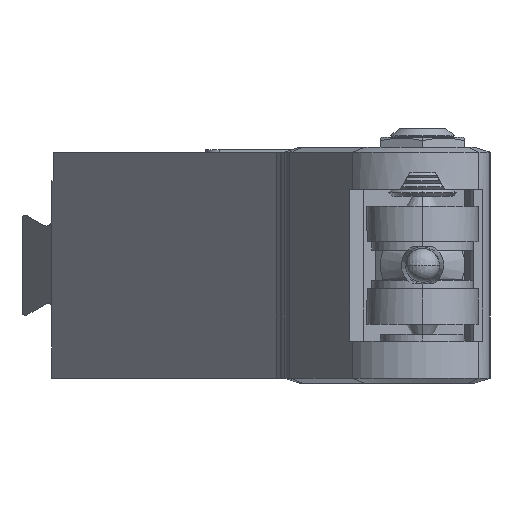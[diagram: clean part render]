
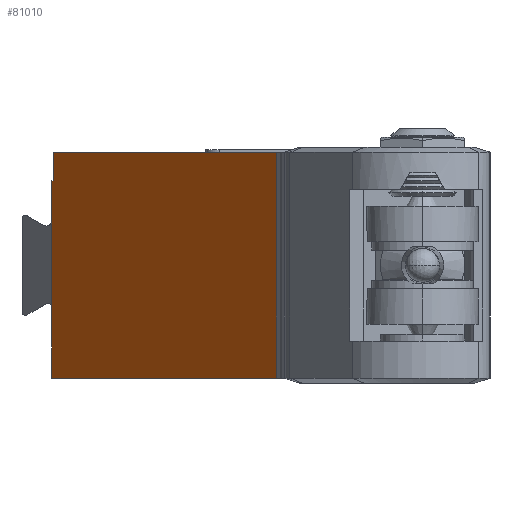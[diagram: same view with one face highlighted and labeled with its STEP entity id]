
A CAD part, left-side view. The second image highlights one B-rep face of the part: STEP entity #81010.
In plain terms, the highlighted planar face has unit normal (-0.643, 0.766, 0).
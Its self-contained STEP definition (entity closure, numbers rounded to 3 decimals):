
#14870=CARTESIAN_POINT('',(27.531,-70.405,5.));
#14880=VERTEX_POINT('',#14870);
#15030=CARTESIAN_POINT('',(27.531,-70.405,6.7));
#15040=VERTEX_POINT('',#15030);
#15070=CARTESIAN_POINT('',(27.531,-70.405,0.));
#15080=DIRECTION('',(0.,0.,-1.));
#15090=VECTOR('',#15080,1.);
#15100=LINE('',#15070,#15090);
#15110=EDGE_CURVE('',#15040,#14880,#15100,.T.);
#16600=CARTESIAN_POINT('',(11.762,-83.637,6.7));
#16610=VERTEX_POINT('',#16600);
#16640=CARTESIAN_POINT('',(-0.7,-94.094,6.7));
#16650=DIRECTION('',(0.766,0.643,0.));
#16660=VECTOR('',#16650,1.);
#16670=LINE('',#16640,#16660);
#16680=EDGE_CURVE('',#16610,#15040,#16670,.T.);
#62490=CARTESIAN_POINT('',(27.65,-70.305,
2.627));
#62500=VERTEX_POINT('',#62490);
#72080=CARTESIAN_POINT('',(-1.083,-94.415,5.));
#72090=DIRECTION('',(0.766,0.643,0.));
#72100=VECTOR('',#72090,1.);
#72110=LINE('',#72080,#72100);
#72120=CARTESIAN_POINT('',(27.65,-70.305,5.));
#72130=VERTEX_POINT('',#72120);
#72140=EDGE_CURVE('',#14880,#72130,#72110,.T.);
#78690=CARTESIAN_POINT('',(11.762,-83.637,-6.7));
#78700=VERTEX_POINT('',#78690);
#78730=CARTESIAN_POINT('',(11.762,-83.637,-7.));
#78740=DIRECTION('',(0.,0.,1.));
#78750=VECTOR('',#78740,1.);
#78760=LINE('',#78730,#78750);
#78770=EDGE_CURVE('',#78700,#16610,#78760,.T.);
#78940=CARTESIAN_POINT('',(27.65,-70.305,-7.));
#78950=DIRECTION('',(0.,0.,-1.));
#78960=VECTOR('',#78950,1.);
#78970=LINE('',#78940,#78960);
#78980=CARTESIAN_POINT('',(27.65,-70.305,
-2.453));
#78990=VERTEX_POINT('',#78980);
#79000=CARTESIAN_POINT('',(27.65,-70.305,-6.7));
#79010=VERTEX_POINT('',#79000);
#79020=EDGE_CURVE('',#78990,#79010,#78970,.T.);
#80320=CARTESIAN_POINT('',(27.65,-70.305,-7.));
#80330=DIRECTION('',(0.,0.,1.));
#80340=VECTOR('',#80330,1.);
#80350=LINE('',#80320,#80340);
#80360=EDGE_CURVE('',#78990,#62500,#80350,.T.);
#80700=CARTESIAN_POINT('',(-1.083,-94.415,-6.7));
#80710=DIRECTION('',(0.766,0.643,0.));
#80720=VECTOR('',#80710,1.);
#80730=LINE('',#80700,#80720);
#80740=EDGE_CURVE('',#78700,#79010,#80730,.T.);
#80810=CARTESIAN_POINT('',(32.94,-65.866,-8.4
));
#80820=DIRECTION('',(0.643,-0.766,0.));
#80830=DIRECTION('',(-0.766,-0.643,0.));
#80840=AXIS2_PLACEMENT_3D('',#80810,#80820,#80830);
#80850=PLANE('',#80840);
#80860=CARTESIAN_POINT('',(27.65,-70.305,-7.));
#80870=DIRECTION('',(0.,0.,-1.));
#80880=VECTOR('',#80870,1.);
#80890=LINE('',#80860,#80880);
#80900=EDGE_CURVE('',#72130,#62500,#80890,.T.);
#80910=ORIENTED_EDGE('',*,*,#80900,.T.);
#80920=ORIENTED_EDGE('',*,*,#72140,.T.);
#80930=ORIENTED_EDGE('',*,*,#15110,.T.);
#80940=ORIENTED_EDGE('',*,*,#16680,.T.);
#80950=ORIENTED_EDGE('',*,*,#78770,.T.);
#80960=ORIENTED_EDGE('',*,*,#80740,.F.);
#80970=ORIENTED_EDGE('',*,*,#79020,.T.);
#80980=ORIENTED_EDGE('',*,*,#80360,.F.);
#80990=EDGE_LOOP('',(#80980,#80970,#80960,#80950,#80940,#80930,#80920,
#80910));
#81000=FACE_OUTER_BOUND('',#80990,.T.);
#81010=ADVANCED_FACE('',(#81000),#80850,.F.);
